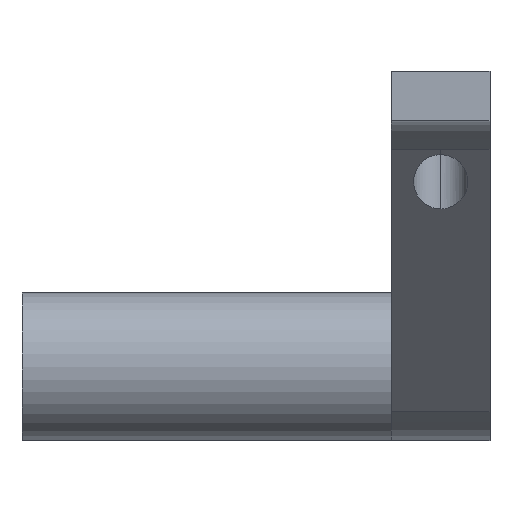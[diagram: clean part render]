
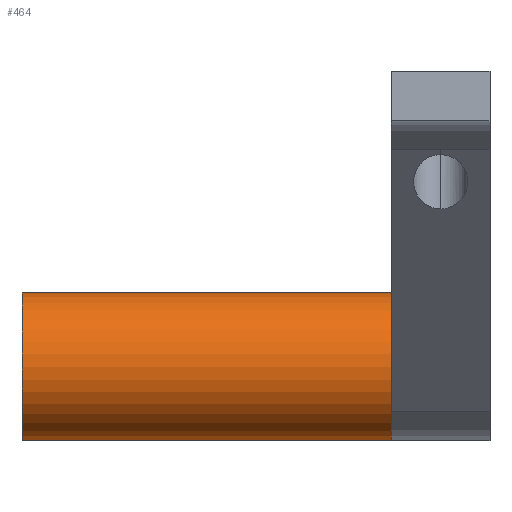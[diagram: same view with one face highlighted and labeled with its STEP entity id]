
A CAD part, front view. The second image highlights one B-rep face of the part: STEP entity #464.
In plain terms, the highlighted cylindrical face has radius 15 mm (diameter 30 mm), a partial arc.
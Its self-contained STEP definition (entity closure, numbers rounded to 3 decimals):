
#14 = ORIENTED_EDGE ( 'NONE', *, *, #279, .T. ) ;
#15 = CARTESIAN_POINT ( 'NONE',  ( 20., 120., -60. ) ) ;
#52 = CIRCLE ( 'NONE', #390, 15. ) ;
#92 = CARTESIAN_POINT ( 'NONE',  ( 20., 120., -45. ) ) ;
#100 = DIRECTION ( 'NONE',  ( -1., 0., 0. ) ) ;
#125 = CIRCLE ( 'NONE', #291, 15. ) ;
#134 = ORIENTED_EDGE ( 'NONE', *, *, #715, .F. ) ;
#137 = CARTESIAN_POINT ( 'NONE',  ( -75., 120., -75. ) ) ;
#153 = CARTESIAN_POINT ( 'NONE',  ( -75., 120., -45. ) ) ;
#216 = CARTESIAN_POINT ( 'NONE',  ( 20., 120., -75. ) ) ;
#218 = CARTESIAN_POINT ( 'NONE',  ( 0., 120., -60. ) ) ;
#234 = VERTEX_POINT ( 'NONE', #153 ) ;
#265 = DIRECTION ( 'NONE',  ( -1., 0., 0. ) ) ;
#279 = EDGE_CURVE ( 'NONE', #545, #750, #52, .T. ) ;
#291 = AXIS2_PLACEMENT_3D ( 'NONE', #691, #453, #400 ) ;
#292 = VECTOR ( 'NONE', #265, 1000. ) ;
#300 = ORIENTED_EDGE ( 'NONE', *, *, #328, .F. ) ;
#315 = DIRECTION ( 'NONE',  ( 0., 0., 1. ) ) ;
#328 = EDGE_CURVE ( 'NONE', #463, #234, #125, .T. ) ;
#354 = EDGE_LOOP ( 'NONE', ( #134, #14, #578, #300 ) ) ;
#390 = AXIS2_PLACEMENT_3D ( 'NONE', #218, #100, #572 ) ;
#400 = DIRECTION ( 'NONE',  ( 0., 0., 1. ) ) ;
#419 = AXIS2_PLACEMENT_3D ( 'NONE', #15, #643, #315 ) ;
#453 = DIRECTION ( 'NONE',  ( -1., 0., 0. ) ) ;
#463 = VERTEX_POINT ( 'NONE', #137 ) ;
#464 = ADVANCED_FACE ( 'NONE', ( #540 ), #652, .T. ) ;
#476 = CARTESIAN_POINT ( 'NONE',  ( 0., 120., -75. ) ) ;
#501 = LINE ( 'NONE', #92, #292 ) ;
#540 = FACE_OUTER_BOUND ( 'NONE', #354, .T. ) ;
#545 = VERTEX_POINT ( 'NONE', #476 ) ;
#572 = DIRECTION ( 'NONE',  ( 0., 0., 1. ) ) ;
#578 = ORIENTED_EDGE ( 'NONE', *, *, #658, .T. ) ;
#634 = DIRECTION ( 'NONE',  ( -1., 0., 0. ) ) ;
#643 = DIRECTION ( 'NONE',  ( -1., 0., 0. ) ) ;
#652 = CYLINDRICAL_SURFACE ( 'NONE', #419, 15. ) ;
#658 = EDGE_CURVE ( 'NONE', #750, #234, #501, .T. ) ;
#691 = CARTESIAN_POINT ( 'NONE',  ( -75., 120., -60. ) ) ;
#699 = LINE ( 'NONE', #216, #701 ) ;
#701 = VECTOR ( 'NONE', #634, 1000. ) ;
#715 = EDGE_CURVE ( 'NONE', #545, #463, #699, .T. ) ;
#747 = CARTESIAN_POINT ( 'NONE',  ( 0., 120., -45. ) ) ;
#750 = VERTEX_POINT ( 'NONE', #747 ) ;
